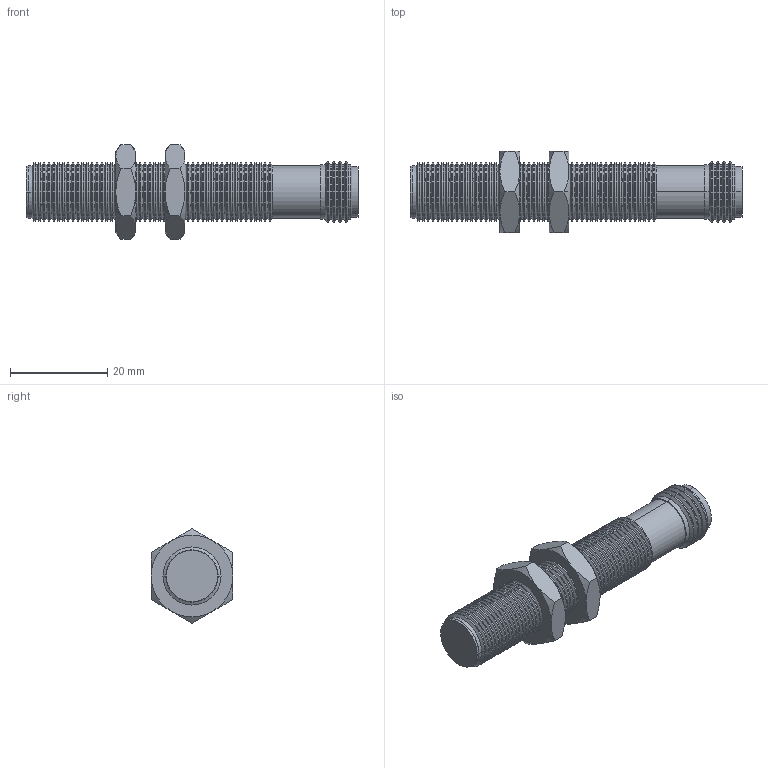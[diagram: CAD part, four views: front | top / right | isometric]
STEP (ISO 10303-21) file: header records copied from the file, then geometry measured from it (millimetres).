
FILE_DESCRIPTION (( 'STEP AP203' ), '1' );
FILE_NAME ('90-XXXX-009.STEP', '2015-10-28T13:10:22', ( 'Sam' ), ( 'Spade' ), 'SwSTEP 2.0', 'SolidWorks 2002296', '' );
FILE_SCHEMA (( 'CONFIG_CONTROL_DESIGN' ));
Length unit declared in the file: inch
Products named in the file (9): 90-XXXX-009; Imported86; Imported85; Imported84; Imported87; Imported82; Imported81; Imported80; Imported83
Assembly tree (8 placements, depth 2):
  90-XXXX-009
    Imported80
    Imported87
    Imported83
    Imported86
    Imported85
    Imported84
    Imported81
    Imported82
Bounding box: 68.45 x 16.87 x 19.47 mm (x, y, z)
Volume: 7705.5 mm3; surface area: 6198.8 mm2
Topology: 8 solids, 8 shells, 472 faces, 1132 edges, 678 vertices
Faces by surface type: cone 284, cylinder 145, plane 37, bspline 6
Entity records: 14862 total; most frequent: DIRECTION 2681, CARTESIAN_POINT 2569, ORIENTED_EDGE 2252, EDGE_CURVE 1126, AXIS2_PLACEMENT_3D 1126, VERTEX_POINT 678, CIRCLE 649, EDGE_LOOP 484
